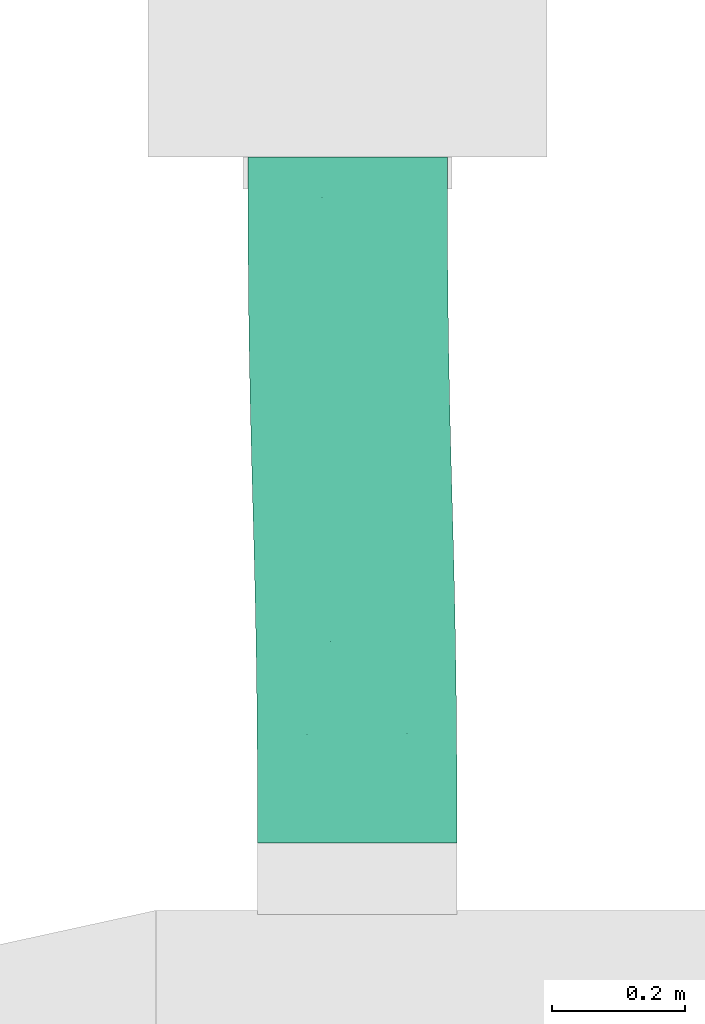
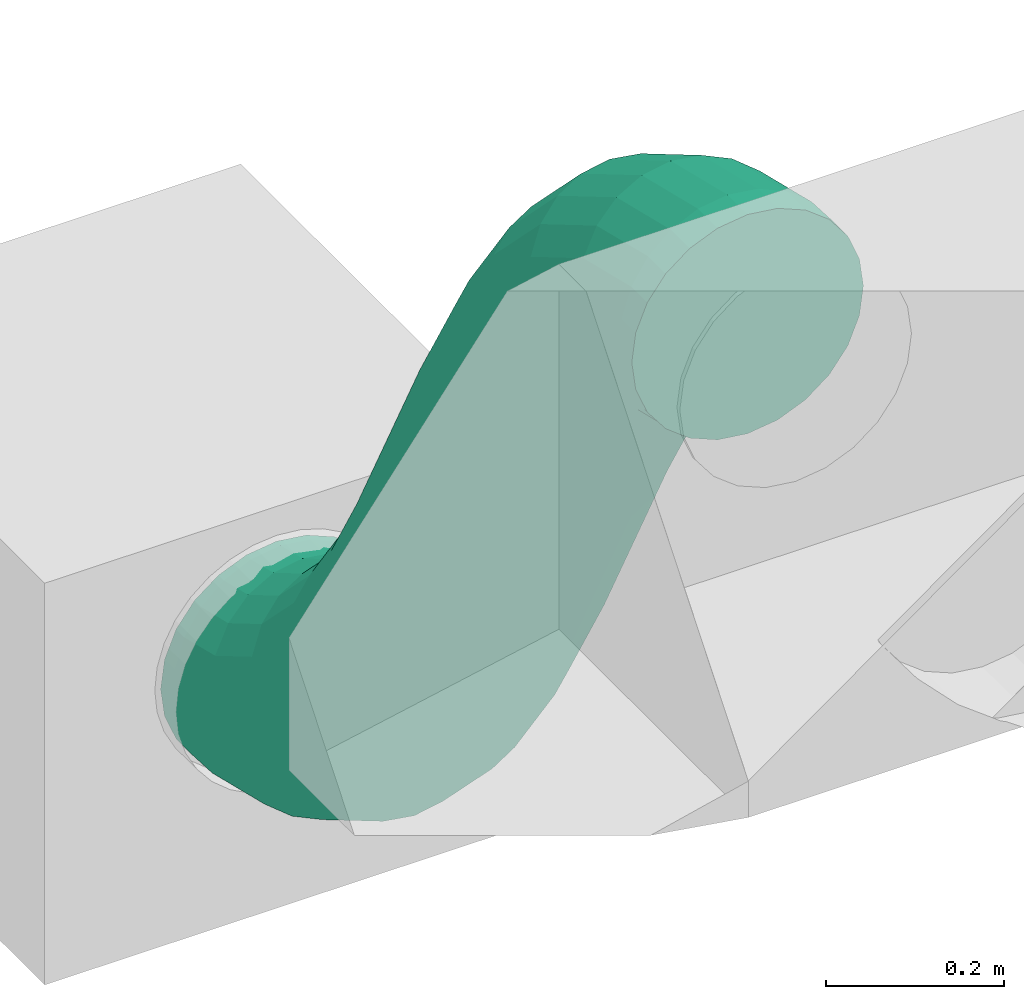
# One storey, part 38 of 60: 1 flow segment.
"""IFC2X3 building model written with IfcOpenShell, lengths in millimetres."""

from ifc_helpers import new_model, entity, si_unit, converted_unit, derived_unit, direction, frame, origin, place, context, subcontext, project, spatial, faceted_brep, type_object, element, save


model = new_model("IFC2X3")

# Units and contexts
model_context = context("Model", 3, precision=0.01, world=origin(), true_north=direction((6.123233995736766e-17, 1.0)))
body_context = subcontext(model_context, "Body", "Model", "MODEL_VIEW")
ifc_project = project(units=[si_unit("LENGTHUNIT", "METRE", prefix="MILLI"), converted_unit("PLANEANGLEUNIT", "DEGREE", entity("IfcPlaneAngleMeasure", 0.017453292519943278), si_unit("PLANEANGLEUNIT", "RADIAN"), dimensions=[0, 0, 0, 0, 0, 0, 0]), si_unit("AREAUNIT", "SQUARE_METRE"), derived_unit("THERMALTRANSMITTANCEUNIT", [(si_unit("MASSUNIT", "GRAM", prefix="KILO"), 1), (si_unit("THERMODYNAMICTEMPERATUREUNIT", "KELVIN"), -1), (si_unit("TIMEUNIT", "SECOND"), -3)])], contexts=[model_context])

# Site, building, storey
site_placement = place(None, origin())
site = spatial("IfcSite", under=ifc_project, at=site_placement, Name="Default", CompositionType="ELEMENT")
building_placement = place(site_placement, origin())
building = spatial("IfcBuilding", under=site, at=building_placement, Name="Praça Pedro II, 1301 - Centro (Sul), Teresina - PI, 64001-100", CompositionType="ELEMENT")
storey_placement = place(building_placement, frame((0.0, 0.0, 6040.0)))
storey = spatial("IfcBuildingStorey", under=building, at=storey_placement, Name="2PAV", CompositionType="ELEMENT", Elevation=6040.0)

# Flow segment
duct_segment_type = type_object("IfcDuctSegmentType", Name="Duto flexível redondo:Flexível - Redondo", PredefinedType="FLEXIBLESEGMENT")
flow_segment_placement = place(storey_placement, frame((18789.7258134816, -64343.30803541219, 2260.904727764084)))
element("IfcFlowSegment", 1, at=flow_segment_placement, inside=storey, type_object=duct_segment_type, Name="Duto flexível redondo:Flexível - Redondo", ObjectType="Duto flexível redondo:Flexível - Redondo", context=body_context, shape_type="Brep", body=[
    faceted_brep([(76.59527223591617, 1031.3910904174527, 281.49908280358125), (112.77241547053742, 1031.3910904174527, 296.48414617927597), (151.59527223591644, 1031.3910904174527, 301.5952722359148), (190.41812900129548, 1031.3910904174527, 296.48414617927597), (226.59527223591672, 1031.3910904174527, 281.49908280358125), (257.66128941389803, 1031.3910904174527, 257.66128941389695), (281.49908280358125, 1031.3910904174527, 226.59527223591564), (296.48414617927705, 1031.3910904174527, 190.41812900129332), (301.595272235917, 1031.3910904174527, 151.59527223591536), (296.48414617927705, 1031.3910904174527, 112.77241547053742), (281.49908280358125, 1031.3910904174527, 76.59527223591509), (257.66128941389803, 1031.3910904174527, 45.529255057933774), (226.59527223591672, 1031.3910904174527, 21.691461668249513), (190.41812900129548, 1031.3910904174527, 6.706398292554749), (151.59527223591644, 1031.3910904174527, 1.5952722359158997), (112.77241547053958, 1031.3910904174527, 6.706398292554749), (76.59527223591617, 1031.3910904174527, 21.691461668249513), (45.52925505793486, 1031.3910904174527, 45.529255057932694), (21.69146166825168, 1031.3910904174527, 76.59527223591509), (6.706398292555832, 1031.3910904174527, 112.77241547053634), (1.5952722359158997, 1031.3910904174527, 151.59527223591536), (6.706398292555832, 1031.3910904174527, 190.41812900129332), (21.691461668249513, 1031.3910904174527, 226.59527223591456), (45.52925505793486, 1031.3910904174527, 257.66128941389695), (296.48414617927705, 1000.0483034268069, 112.77241547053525), (281.4990828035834, 995.7564295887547, 76.59527223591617), (257.6612894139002, 992.0530840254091, 45.52925505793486), (301.595272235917, 1004.6362214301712, 151.59527223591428), (226.59527223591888, 989.1906436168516, 21.69146166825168), (190.4181290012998, 987.3641789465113, 6.706398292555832), (151.59527223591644, 986.6981605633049, 1.5952722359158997), (112.77241547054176, 987.2379765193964, 6.706398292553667), (76.5952722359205, 988.9468392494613, 21.69146166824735), (45.52925505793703, 991.7082925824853, 45.52925505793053), (21.69146166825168, 995.3341480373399, 76.59527223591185), (6.706398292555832, 999.5773095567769, 112.77241547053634), (1.5952722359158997, 1004.148612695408, 151.59527223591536), (6.706398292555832, 1008.7365306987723, 190.41812900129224), (21.691461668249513, 1013.0284045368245, 226.5952722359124), (45.529255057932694, 1016.7317501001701, 257.6612894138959), (112.77241547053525, 1021.4206551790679, 296.4841461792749), (151.59527223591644, 1022.0866735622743, 301.5952722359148), (76.59527223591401, 1019.5941905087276, 281.49908280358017), (226.59527223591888, 1019.8379948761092, 281.49908280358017), (257.66128941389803, 1017.0765415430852, 257.66128941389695), (190.41812900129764, 1021.5468576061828, 296.4841461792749), (296.48414617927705, 1009.2075245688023, 190.41812900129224), (281.4990828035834, 1013.4506860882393, 226.59527223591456), (127.48120881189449, 0.0, 1363.984146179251), (91.30406557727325, 0.0, 1348.9990828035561), (60.23804839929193, 0.0, 1325.1612894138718), (36.40025500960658, 0.0, 1294.0952722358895), (21.4151916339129, 0.0, 1257.9181290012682), (16.30406557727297, 0.0, 1219.0952722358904), (21.4151916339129, 0.0, 1180.2724154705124), (36.40025500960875, 0.0, 1144.09527223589), (60.23804839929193, 0.0, 1113.0292550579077), (91.30406557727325, 0.0, 1089.1914616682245), (127.48120881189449, 0.0, 1074.2063982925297), (166.30406557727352, 0.0, 1069.0952722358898), (205.12692234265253, 0.0, 1074.2063982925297), (241.3040655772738, 0.0, 1089.1914616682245), (272.3700827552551, 0.0, 1113.0292550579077), (296.20787614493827, 0.0, 1144.09527223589), (311.1929395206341, 0.0, 1180.2724154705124), (316.30406557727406, 0.0, 1219.0952722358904), (311.1929395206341, 0.0, 1257.9181290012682), (296.2078761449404, 0.0, 1294.0952722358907), (272.3700827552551, 0.0, 1325.1612894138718), (241.3040655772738, 0.0, 1348.9990828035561), (205.12692234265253, 0.0, 1363.984146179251), (166.30406557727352, 0.0, 1369.095272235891), (301.8829138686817, 917.3823446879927, 172.47104605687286), (296.8050485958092, 902.7050237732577, 136.06211175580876), (281.85109978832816, 888.9747850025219, 102.14312803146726), (258.0401543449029, 877.1273214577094, 73.02561757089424), (226.99488884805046, 867.9700182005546, 50.693890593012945), (190.8309868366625, 862.1269303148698, 36.66981738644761), (152.01295846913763, 859.9962545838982, 31.9091153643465), (113.18618822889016, 861.7231930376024, 36.736218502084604), (76.99665634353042, 867.1900576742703, 50.822167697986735), (45.91061960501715, 876.0242907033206, 73.20702879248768), (22.046540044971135, 887.6238537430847, 102.36531049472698), (7.030715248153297, 901.1982557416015, 136.309924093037), (1.886448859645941, 915.8224236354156, 172.72760026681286), (6.9643141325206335, 930.4997445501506, 209.1365345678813), (21.91826293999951, 944.2299833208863, 243.05551829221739), (45.729208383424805, 956.0774468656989, 272.1730287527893), (76.77447388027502, 965.2347501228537, 294.5047557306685), (112.93837589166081, 971.0778380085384, 308.5288289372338), (151.7564042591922, 973.2085137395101, 313.289530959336), (190.583174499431, 971.4815752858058, 308.46242782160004), (226.7727063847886, 966.0147106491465, 294.376478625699), (257.85874312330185, 957.1804776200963, 271.9916175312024), (296.73864748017, 932.0065125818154, 208.88872223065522), (281.72282268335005, 945.5809145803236, 242.83333582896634), (302.6790025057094, 818.8247155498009, 230.2476834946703), (297.6772087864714, 794.7295589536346, 199.35969041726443), (282.79442287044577, 772.1891883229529, 170.60539864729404), (259.04488202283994, 752.7396926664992, 145.9443656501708), (228.04707820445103, 737.7065229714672, 127.05720007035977), (191.91346051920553, 728.1141649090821, 115.23103102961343), (153.10647529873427, 724.6163218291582, 111.27179240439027), (114.27075445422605, 727.4513659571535, 115.44929976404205), (78.05288818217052, 736.4260937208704, 127.47886288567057), (46.92106421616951, 750.9288922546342, 146.54068692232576), (22.9968649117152, 769.9714198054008, 171.33574006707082), (7.9106849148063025, 792.255959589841, 200.17428042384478), (2.690622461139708, 816.2638570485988, 231.0910091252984), (7.692416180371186, 840.3590136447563, 261.97900220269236), (22.575202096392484, 862.8993842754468, 290.73329397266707), (46.3247429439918, 882.3488799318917, 315.3943269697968), (77.32254676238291, 897.3820496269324, 334.28149254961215), (113.45616444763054, 906.9744076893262, 346.1076615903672), (152.26314966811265, 910.4722507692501, 350.06690021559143), (191.0988705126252, 907.6372066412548, 345.8893928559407), (227.31673678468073, 898.6624788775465, 333.8598297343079), (258.4485607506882, 884.1596803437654, 314.7980056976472), (297.4589400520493, 842.8326130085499, 261.164412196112), (282.3727600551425, 865.1171527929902, 290.0029525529), (303.8833375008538, 732.6640094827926, 317.6530591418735), (298.9638485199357, 702.6805955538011, 292.738384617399), (284.1580564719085, 674.6319186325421, 269.57197162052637), (260.4749516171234, 650.4294496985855, 249.7325729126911), (229.52849841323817, 631.7225470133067, 234.5722107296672), (193.42764650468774, 619.7860550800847, 225.12403870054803), (154.6326092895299, 615.4334260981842, 222.03193413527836), (115.78720444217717, 618.9612845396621, 225.50661885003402), (79.53868210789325, 630.1292126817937, 235.31129882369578), (48.35731918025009, 648.1761346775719, 250.7778013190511), (24.368074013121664, 671.8721826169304, 270.8521097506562), (9.205774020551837, 699.602509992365, 294.1661931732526), (3.9037048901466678, 729.4773408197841, 319.1312353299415), (8.823193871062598, 759.4607547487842, 344.0459098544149), (23.628985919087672, 787.5094316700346, 367.21232285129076), (47.31209077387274, 811.7119006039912, 387.0517215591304), (78.25854397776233, 830.4188032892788, 402.21208374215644), (114.35939588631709, 842.3552952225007, 411.6602557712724), (153.15443310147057, 846.7079242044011, 414.7523603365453), (191.99983794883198, 843.1800657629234, 411.2776756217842), (228.24836028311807, 832.012137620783, 401.47299564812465), (259.42972321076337, 813.9652156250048, 386.0064931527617), (298.58126837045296, 762.5388403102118, 342.6181012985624), (283.41896837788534, 790.2691676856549, 365.9321847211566), (305.39541331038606, 655.784654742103, 427.39291945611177), (300.5336222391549, 622.8676722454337, 406.665707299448), (285.7818050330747, 592.0747208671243, 387.41655266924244), (262.1452736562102, 565.5042893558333, 370.9572536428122), (231.23481866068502, 544.9671087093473, 358.4094842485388), (195.15693647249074, 531.8627538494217, 350.62835423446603), (156.37027514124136, 527.0842649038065, 348.1441347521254), (117.51808153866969, 530.9572879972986, 351.12612125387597), (81.24806845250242, 543.217883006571, 359.37109628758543), (50.03197733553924, 563.0305106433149, 372.3171784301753), (25.997133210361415, 589.0449730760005, 389.08211357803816), (10.781470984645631, 619.4884276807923, 408.52339910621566), (5.421912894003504, 652.2862033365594, 429.3161435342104), (10.283703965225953, 685.2031858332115, 450.04335569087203), (25.03552117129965, 715.9961372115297, 469.2925103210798), (48.672052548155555, 742.5665687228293, 485.75180934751), (79.58250754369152, 763.103749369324, 498.2995787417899), (115.66038973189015, 776.2081042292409, 506.08070875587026), (154.44705106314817, 780.9865931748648, 508.56492823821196), (193.29924466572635, 777.1135700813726, 505.5829417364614), (229.56925775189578, 764.8529750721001, 497.3379667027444), (260.7853488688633, 745.0403474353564, 484.3918845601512), (300.0358552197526, 688.5824303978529, 448.18566388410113), (284.8201929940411, 719.0258850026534, 467.62694941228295), (307.11312850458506, 585.1122336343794, 552.0571884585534), (302.28361993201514, 550.8670435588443, 533.6728991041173), (287.562002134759, 518.8315897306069, 516.6154857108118), (263.9515290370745, 491.18903538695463, 502.0473828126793), (233.061215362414, 469.8231749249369, 490.96138254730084), (196.99618493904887, 456.1900564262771, 484.11297751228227), (158.2142099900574, 451.2187543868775, 481.96887519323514), (119.35821801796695, 455.24805482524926, 484.67519261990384), (83.07618066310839, 468.0033675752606, 492.04749873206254), (51.840658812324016, 488.61543915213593, 503.58338305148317), (27.780301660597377, 515.6795909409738, 518.4966941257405), (12.534782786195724, 547.3514457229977, 535.7711144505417), (7.143059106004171, 581.4726189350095, 554.2294208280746), (11.972567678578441, 615.7178090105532, 572.6137101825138), (26.694185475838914, 647.7532628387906, 589.6711235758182), (50.304658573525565, 675.3958171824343, 604.2392264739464), (81.19497224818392, 696.7616776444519, 615.3252267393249), (117.26000267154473, 710.394796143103, 622.1736317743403), (156.04197762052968, 715.3660981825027, 624.3177340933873), (194.8979695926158, 711.3367977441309, 621.6114166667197), (231.18000694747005, 698.5814849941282, 614.2391105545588), (262.4155287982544, 677.9694134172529, 602.7032262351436), (301.7214048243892, 619.2334068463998, 570.5154948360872), (286.4758859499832, 650.9052616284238, 587.7899151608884), (308.9341576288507, 517.5356132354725, 684.219531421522), (310.7562787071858, 449.9184714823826, 816.461123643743), (305.9267701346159, 415.6732814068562, 798.0768342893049), (304.11492326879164, 482.9091571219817, 666.5808995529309), (291.20515233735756, 383.6378275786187, 781.0194208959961), (289.4029167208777, 450.51703917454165, 650.2210286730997), (265.800736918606, 422.56672870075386, 636.2548169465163), (267.5946792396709, 355.99527323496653, 766.4513179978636), (234.9168334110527, 400.96299316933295, 625.6340386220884), (236.70436556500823, 334.6294127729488, 755.365317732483), (200.63933514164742, 320.99629427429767, 748.5169126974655), (198.85589318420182, 387.17809145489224, 619.0824821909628), (161.85736019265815, 316.02499223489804, 746.3728103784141), (160.07540972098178, 382.1514418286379, 617.0466253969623), (123.00136822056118, 320.0542926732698, 749.0791278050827), (121.21820888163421, 386.2256021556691, 619.6652085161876), (86.71933086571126, 332.8096054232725, 756.4514339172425), (84.93234468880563, 399.1229251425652, 626.759779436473), (55.483809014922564, 353.4216770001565, 767.9873182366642), (53.69063882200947, 419.9644795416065, 637.8468548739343), (29.62216190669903, 447.32994786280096, 652.1708689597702), (31.423451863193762, 380.4858287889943, 782.900629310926), (16.17793298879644, 412.1576835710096, 800.1750496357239), (14.367140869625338, 479.3544186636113, 668.755663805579), (10.78620930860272, 446.27885678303, 818.6333560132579), (8.965180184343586, 513.8554771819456, 686.4710130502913), (15.615717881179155, 480.5240468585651, 837.0176453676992), (13.784414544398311, 548.4819332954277, 704.1096449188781), (30.33733567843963, 512.5595006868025, 854.075058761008), (28.49642109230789, 580.8740512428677, 720.4695157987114), (53.94780877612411, 540.2020550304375, 868.6431616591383), (52.09860089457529, 608.8243617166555, 734.4357275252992), (82.98250440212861, 630.4280972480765, 745.0565058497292), (84.83812245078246, 561.5679154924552, 879.7291619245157), (120.90315287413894, 575.2010339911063, 886.5775669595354), (119.04344462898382, 644.2129989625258, 751.608062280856), (159.68512782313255, 580.1723360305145, 888.7216692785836), (157.82392809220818, 649.2396485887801, 753.6439190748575), (198.54111979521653, 576.1430355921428, 886.015351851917), (196.68112893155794, 645.1654882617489, 751.0253359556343), (234.82315715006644, 563.3877228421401, 878.6430457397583), (232.96699312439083, 632.2681652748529, 743.9307650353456), (264.2086989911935, 611.4266108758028, 732.8436895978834), (266.0586790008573, 542.7756512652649, 867.1071614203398), (288.2771759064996, 584.061142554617, 718.5196755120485), (290.1190361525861, 515.711499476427, 852.1938503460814), (305.36455502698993, 484.03964469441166, 834.9194300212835), (303.5321969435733, 552.0366717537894, 701.9348806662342), (307.6156338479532, 346.18790458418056, 920.6471887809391), (292.86381664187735, 315.3949532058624, 901.3980341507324), (312.4774249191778, 379.10488708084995, 941.3744009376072), (269.2272852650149, 288.82452169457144, 884.9387351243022), (238.3168302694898, 268.2873410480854, 872.3909657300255), (202.23894808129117, 255.18298618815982, 864.6098357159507), (163.4522867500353, 250.40449724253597, 862.12561623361), (124.60009314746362, 254.2775203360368, 865.1076027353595), (88.33008006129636, 266.5381153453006, 873.3525777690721), (57.11398894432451, 286.350742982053, 886.2986599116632), (17.863482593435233, 342.80866001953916, 922.5048805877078), (12.503924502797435, 375.606435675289, 943.297625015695), (33.07914481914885, 312.3652054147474, 903.0635950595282), (17.365715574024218, 408.5234181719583, 964.0248371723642), (32.117532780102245, 439.31636955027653, 983.2739918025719), (55.75406415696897, 465.88680106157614, 999.7332908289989), (86.66451915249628, 486.4239817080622, 1012.2810602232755), (122.74240134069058, 499.52833656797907, 1020.0621902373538), (161.52906267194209, 504.3068255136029, 1022.54640971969), (200.38125627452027, 500.4338024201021, 1019.5644232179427), (236.65126936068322, 488.17320741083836, 1011.31944818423), (267.86736047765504, 468.36057977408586, 998.3733660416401), (291.90220460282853, 442.34611734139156, 981.6084308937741), (307.11786682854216, 411.9026627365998, 962.1671453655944), (309.07614394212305, 271.93033566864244, 1026.6446346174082), (294.270351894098, 243.88165874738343, 1003.4782216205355), (313.9956329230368, 301.91374959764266, 1051.5593091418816), (270.58724703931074, 219.6791898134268, 983.6388229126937), (239.64079383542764, 200.9722871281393, 968.4784607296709), (203.53994192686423, 189.0357951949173, 959.0302887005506), (164.74490471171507, 184.68316621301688, 955.9381841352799), (125.89949986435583, 188.2110246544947, 959.4128688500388), (89.65097753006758, 199.378952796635, 969.2175488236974), (58.469614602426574, 217.42587479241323, 984.6840513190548), (19.318069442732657, 268.85225010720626, 1028.0724431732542), (14.016000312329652, 298.7270809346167, 1053.0374853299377), (34.480369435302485, 241.12192273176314, 1004.7583597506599), (18.93548929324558, 328.71049486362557, 1077.9521598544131), (33.74128134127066, 356.75917178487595, 1101.118572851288), (57.42438619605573, 380.9616407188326, 1120.9579715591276), (88.37083939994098, 399.6685434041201, 1136.1183337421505), (124.47169130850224, 411.60503533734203, 1145.5665057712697), (163.26672852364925, 415.9576643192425, 1148.6586103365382), (202.1121333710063, 412.4298058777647, 1145.1839256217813), (238.3606557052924, 401.26187773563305, 1135.3792456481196), (269.5420186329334, 383.2149557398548, 1119.9127431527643), (293.5312638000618, 359.51890780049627, 1099.8384347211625), (308.6935637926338, 331.7885804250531, 1076.5243512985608), (310.2069216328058, 191.03207677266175, 1108.711542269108), (295.32413571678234, 168.49170614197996, 1079.957250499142), (315.20871535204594, 215.1272333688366, 1139.599535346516), (271.5745948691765, 149.04221048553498, 1055.2962175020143), (240.5767910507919, 134.00904079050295, 1036.4090519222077), (204.4431733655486, 124.41668272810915, 1024.5828828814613), (165.6361881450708, 120.91883964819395, 1020.6236442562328), (126.80046730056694, 123.75388377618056, 1024.8011516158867), (90.5826010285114, 132.72861153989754, 1036.830714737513), (59.45077706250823, 147.2314100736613, 1055.8925387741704), (20.44039776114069, 188.5584774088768, 1109.5261322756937), (15.220335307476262, 212.5663748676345, 1140.442860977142), (35.52657775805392, 166.27393762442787, 1080.6875919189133), (20.22212902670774, 236.66153146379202, 1171.330854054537), (35.10491494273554, 259.2019020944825, 1200.085145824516), (58.854455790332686, 278.65139775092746, 1224.7461788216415), (89.85225960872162, 293.6845674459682, 1243.6333444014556), (125.98587729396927, 303.27692550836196, 1255.4595134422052), (164.79286251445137, 306.77476858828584, 1259.4187520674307), (203.6285833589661, 303.93972446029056, 1255.2412447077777), (239.8464496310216, 294.96499669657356, 1243.2116815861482), (270.9782735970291, 280.46219816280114, 1224.1498575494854), (294.90247290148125, 261.4196706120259, 1199.3548044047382), (309.98865289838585, 239.13513082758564, 1170.5162640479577), (310.93502368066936, 100.8913458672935, 1161.5540099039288), (295.98107487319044, 87.16110709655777, 1127.6350261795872), (316.012888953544, 115.56866678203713, 1197.962944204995), (272.17012942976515, 75.31364355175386, 1098.5175157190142), (241.12486393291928, 66.15634029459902, 1076.1857887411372), (204.9609619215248, 60.31325240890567, 1062.1617155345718), (166.14293355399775, 58.18257667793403, 1057.401013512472), (127.31616331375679, 59.90951513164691, 1062.2281166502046), (91.12663142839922, 65.37637976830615, 1076.3140658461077), (60.040594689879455, 74.21061279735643, 1098.69892694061), (21.160690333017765, 99.38457783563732, 1161.8018222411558), (16.016423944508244, 114.00874572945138, 1198.219498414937), (36.176515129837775, 85.81017583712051, 1127.8572086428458), (21.094289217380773, 128.68606664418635, 1234.628432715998), (36.048238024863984, 142.41630541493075, 1268.5474164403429), (59.859183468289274, 154.26376895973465, 1297.6649269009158), (90.904448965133, 163.42107221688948, 1319.9966538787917), (127.0683509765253, 169.26416010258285, 1334.020727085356), (165.88637934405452, 171.3948358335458, 1338.7814291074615), (204.71314958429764, 169.6678973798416, 1333.9543259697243), (240.90268146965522, 164.20103274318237, 1319.8683767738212), (271.98871820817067, 155.36679971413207, 1297.4835156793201), (295.8527977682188, 143.76723667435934, 1268.325233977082), (310.8686225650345, 130.1928346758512, 1234.3806203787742), (311.19293952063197, 22.654559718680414, 1180.2724154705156), (296.20787614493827, 18.36268588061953, 1144.0952722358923), (316.3040655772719, 27.242477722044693, 1219.0952722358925), (272.3700827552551, 14.659340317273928, 1113.0292550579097), (241.30406557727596, 11.79689990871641, 1089.1914616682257), (205.12692234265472, 9.970435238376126, 1074.2063982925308), (166.30406557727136, 9.30441685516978, 1069.0952722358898), (127.48120881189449, 9.844232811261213, 1074.2063982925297), (91.30406557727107, 11.553095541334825, 1089.1914616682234), (60.23804839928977, 14.31454887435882, 1113.0292550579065), (21.415191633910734, 22.183565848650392, 1180.2724154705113), (16.3040655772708, 26.754868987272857, 1219.0952722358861), (36.400255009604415, 17.940404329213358, 1144.095272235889), (21.415191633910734, 31.342786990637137, 1257.9181290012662), (36.40025500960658, 35.634660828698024, 1294.0952722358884), (60.23804839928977, 39.338006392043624, 1325.161289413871), (91.30406557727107, 42.20044680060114, 1348.9990828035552), (127.48120881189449, 44.02691147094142, 1363.9841461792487), (166.30406557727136, 44.69292985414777, 1369.0952722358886), (205.12692234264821, 44.15311389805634, 1363.9841461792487), (241.30406557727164, 42.44425116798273, 1348.999082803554), (272.37008275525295, 39.68279783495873, 1325.161289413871), (296.2078761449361, 36.05694238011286, 1294.0952722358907), (311.1929395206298, 31.81378086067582, 1257.9181290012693)], [[[0, 1, 2, 3, 4, 5, 6, 7, 8, 9, 10, 11, 12, 13, 14, 15, 16, 17, 18, 19, 20, 21, 22, 23]], [[10, 9, 24, 25]], [[11, 10, 25, 26]], [[8, 27, 24, 9]], [[13, 12, 28, 29]], [[14, 13, 29, 30]], [[11, 26, 28, 12]], [[14, 30, 31, 15]], [[15, 31, 32, 16]], [[16, 32, 33, 17]], [[18, 34, 35, 19]], [[19, 35, 36, 20]], [[17, 33, 34, 18]], [[37, 38, 22, 21]], [[36, 37, 21, 20]], [[22, 38, 39, 23]], [[40, 41, 2, 1]], [[42, 40, 1, 0]], [[23, 39, 42, 0]], [[4, 43, 44, 5]], [[45, 43, 4, 3]], [[2, 41, 45, 3]], [[46, 27, 8, 7]], [[47, 46, 7, 6]], [[44, 47, 6, 5]], [[48, 49, 50, 51, 52, 53, 54, 55, 56, 57, 58, 59, 60, 61, 62, 63, 64, 65, 66, 67, 68, 69, 70, 71]], [[24, 27, 72, 73]], [[25, 24, 73, 74]], [[26, 25, 74, 75]], [[29, 28, 76, 77]], [[30, 29, 77, 78]], [[75, 76, 28, 26]], [[30, 78, 79, 31]], [[31, 79, 80, 32]], [[32, 80, 81, 33]], [[33, 81, 82, 34]], [[34, 82, 83, 35]], [[84, 36, 35, 83]], [[85, 86, 38, 37]], [[84, 85, 37, 36]], [[87, 39, 38, 86]], [[88, 89, 40, 42]], [[88, 42, 39, 87]], [[90, 41, 40, 89]], [[91, 92, 43, 45]], [[90, 91, 45, 41]], [[44, 43, 92, 93]], [[94, 72, 27, 46]], [[95, 94, 46, 47]], [[93, 95, 47, 44]], [[72, 96, 97, 73]], [[73, 97, 98, 74]], [[99, 75, 74, 98]], [[76, 100, 101, 77]], [[77, 101, 102, 78]], [[100, 76, 75, 99]], [[79, 78, 102, 103]], [[80, 79, 103, 104]], [[104, 105, 81, 80]], [[82, 81, 105, 106]], [[83, 82, 106, 107]], [[84, 83, 107, 108]], [[109, 110, 86, 85]], [[108, 109, 85, 84]], [[87, 86, 110, 111]], [[112, 113, 89, 88]], [[111, 112, 88, 87]], [[90, 89, 113, 114]], [[115, 116, 92, 91]], [[114, 115, 91, 90]], [[117, 93, 92, 116]], [[118, 96, 72, 94]], [[119, 118, 94, 95]], [[119, 95, 93, 117]], [[96, 120, 121, 97]], [[97, 121, 122, 98]], [[123, 99, 98, 122]], [[100, 124, 125, 101]], [[101, 125, 126, 102]], [[124, 100, 99, 123]], [[103, 102, 126, 127]], [[104, 103, 127, 128]], [[128, 129, 105, 104]], [[106, 105, 129, 130]], [[107, 106, 130, 131]], [[108, 107, 131, 132]], [[133, 134, 110, 109]], [[132, 133, 109, 108]], [[111, 110, 134, 135]], [[136, 137, 113, 112]], [[135, 136, 112, 111]], [[114, 113, 137, 138]], [[139, 140, 116, 115]], [[138, 139, 115, 114]], [[141, 117, 116, 140]], [[142, 120, 96, 118]], [[143, 142, 118, 119]], [[143, 119, 117, 141]], [[120, 144, 145, 121]], [[121, 145, 146, 122]], [[147, 123, 122, 146]], [[124, 148, 149, 125]], [[125, 149, 150, 126]], [[148, 124, 123, 147]], [[127, 126, 150, 151]], [[128, 127, 151, 152]], [[152, 153, 129, 128]], [[130, 129, 153, 154]], [[131, 130, 154, 155]], [[132, 131, 155, 156]], [[157, 158, 134, 133]], [[156, 157, 133, 132]], [[135, 134, 158, 159]], [[160, 161, 137, 136]], [[159, 160, 136, 135]], [[138, 137, 161, 162]], [[163, 164, 140, 139]], [[162, 163, 139, 138]], [[165, 141, 140, 164]], [[166, 144, 120, 142]], [[167, 166, 142, 143]], [[167, 143, 141, 165]], [[144, 168, 169, 145]], [[145, 169, 170, 146]], [[171, 147, 146, 170]], [[148, 172, 173, 149]], [[149, 173, 174, 150]], [[172, 148, 147, 171]], [[151, 150, 174, 175]], [[152, 151, 175, 176]], [[176, 177, 153, 152]], [[154, 153, 177, 178]], [[155, 154, 178, 179]], [[156, 155, 179, 180]], [[181, 182, 158, 157]], [[180, 181, 157, 156]], [[159, 158, 182, 183]], [[184, 185, 161, 160]], [[183, 184, 160, 159]], [[162, 161, 185, 186]], [[187, 188, 164, 163]], [[186, 187, 163, 162]], [[189, 165, 164, 188]], [[190, 168, 144, 166]], [[191, 190, 166, 167]], [[191, 167, 165, 189]], [[168, 192, 193, 194, 195, 169]], [[169, 195, 194, 196, 197, 170]], [[198, 171, 170, 197, 196, 199]], [[172, 200, 201, 202, 203, 173]], [[173, 203, 202, 204, 205, 174]], [[200, 172, 171, 198, 199, 201]], [[175, 174, 205, 204, 206, 207]], [[176, 175, 207, 206, 208, 209]], [[209, 208, 210, 211, 177, 176]], [[179, 178, 212, 213, 214, 215]], [[180, 179, 215, 214, 216, 217]], [[211, 210, 213, 212, 178, 177]], [[181, 180, 217, 216, 218, 219]], [[182, 181, 219, 218, 220, 221]], [[183, 182, 221, 220, 222, 223]], [[185, 184, 224, 225, 226, 227]], [[186, 185, 227, 226, 228, 229]], [[223, 222, 225, 224, 184, 183]], [[186, 229, 228, 230, 231, 187]], [[187, 231, 230, 232, 233, 188]], [[234, 189, 188, 233, 232, 235]], [[191, 236, 237, 238, 239, 190]], [[190, 239, 238, 193, 192, 168]], [[236, 191, 189, 234, 235, 237]], [[240, 241, 196, 194]], [[242, 240, 194, 193]], [[243, 199, 196, 241]], [[244, 245, 202, 201]], [[244, 201, 199, 243]], [[246, 204, 202, 245]], [[247, 248, 208, 206]], [[246, 247, 206, 204]], [[210, 208, 248, 249]], [[250, 251, 216, 214]], [[252, 250, 214, 213]], [[249, 252, 213, 210]], [[218, 216, 251, 253]], [[220, 218, 253, 254]], [[222, 220, 254, 255]], [[226, 225, 256, 257]], [[228, 226, 257, 258]], [[255, 256, 225, 222]], [[228, 258, 259, 230]], [[230, 259, 260, 232]], [[232, 260, 261, 235]], [[235, 261, 262, 237]], [[237, 262, 263, 238]], [[242, 193, 238, 263]], [[264, 265, 241, 240]], [[266, 264, 240, 242]], [[267, 243, 241, 265]], [[268, 269, 245, 244]], [[268, 244, 243, 267]], [[270, 246, 245, 269]], [[271, 272, 248, 247]], [[270, 271, 247, 246]], [[249, 248, 272, 273]], [[274, 275, 251, 250]], [[276, 274, 250, 252]], [[273, 276, 252, 249]], [[253, 251, 275, 277]], [[254, 253, 277, 278]], [[255, 254, 278, 279]], [[257, 256, 280, 281]], [[258, 257, 281, 282]], [[279, 280, 256, 255]], [[258, 282, 283, 259]], [[259, 283, 284, 260]], [[260, 284, 285, 261]], [[261, 285, 286, 262]], [[262, 286, 287, 263]], [[266, 242, 263, 287]], [[288, 289, 265, 264]], [[290, 288, 264, 266]], [[291, 267, 265, 289]], [[292, 293, 269, 268]], [[292, 268, 267, 291]], [[294, 270, 269, 293]], [[295, 296, 272, 271]], [[294, 295, 271, 270]], [[273, 272, 296, 297]], [[298, 299, 275, 274]], [[300, 298, 274, 276]], [[297, 300, 276, 273]], [[277, 275, 299, 301]], [[278, 277, 301, 302]], [[279, 278, 302, 303]], [[281, 280, 304, 305]], [[282, 281, 305, 306]], [[303, 304, 280, 279]], [[282, 306, 307, 283]], [[283, 307, 308, 284]], [[284, 308, 309, 285]], [[285, 309, 310, 286]], [[286, 310, 311, 287]], [[290, 266, 287, 311]], [[312, 313, 289, 288]], [[314, 312, 288, 290]], [[315, 291, 289, 313]], [[316, 317, 293, 292]], [[316, 292, 291, 315]], [[318, 294, 293, 317]], [[319, 320, 296, 295]], [[318, 319, 295, 294]], [[297, 296, 320, 321]], [[322, 323, 299, 298]], [[324, 322, 298, 300]], [[321, 324, 300, 297]], [[301, 299, 323, 325]], [[302, 301, 325, 326]], [[303, 302, 326, 327]], [[305, 304, 328, 329]], [[306, 305, 329, 330]], [[327, 328, 304, 303]], [[306, 330, 331, 307]], [[307, 331, 332, 308]], [[308, 332, 333, 309]], [[309, 333, 334, 310]], [[310, 334, 335, 311]], [[314, 290, 311, 335]], [[336, 337, 313, 312]], [[338, 336, 312, 314]], [[315, 313, 337, 339]], [[340, 341, 317, 316]], [[339, 340, 316, 315]], [[318, 317, 341, 342]], [[343, 344, 320, 319]], [[342, 343, 319, 318]], [[345, 321, 320, 344]], [[346, 347, 323, 322]], [[348, 346, 322, 324]], [[348, 324, 321, 345]], [[323, 347, 349, 325]], [[325, 349, 350, 326]], [[351, 327, 326, 350]], [[328, 352, 353, 329]], [[329, 353, 354, 330]], [[352, 328, 327, 351]], [[331, 330, 354, 355]], [[332, 331, 355, 356]], [[356, 357, 333, 332]], [[334, 333, 357, 358]], [[335, 334, 358, 359]], [[314, 335, 359, 338]], [[336, 338, 65, 64]], [[337, 336, 64, 63]], [[339, 337, 63, 62]], [[341, 340, 61, 60]], [[342, 341, 60, 59]], [[339, 62, 61, 340]], [[342, 59, 58, 343]], [[343, 58, 57, 344]], [[344, 57, 56, 345]], [[348, 55, 54, 346]], [[346, 54, 53, 347]], [[348, 345, 56, 55]], [[347, 53, 52, 349]], [[349, 52, 51, 350]], [[350, 51, 50, 351]], [[352, 49, 48, 353]], [[353, 48, 71, 354]], [[351, 50, 49, 352]], [[355, 354, 71, 70]], [[356, 355, 70, 69]], [[357, 356, 69, 68]], [[359, 358, 67, 66]], [[338, 359, 66, 65]], [[68, 67, 358, 357]]]),
])

save(model, "model.ifc")
